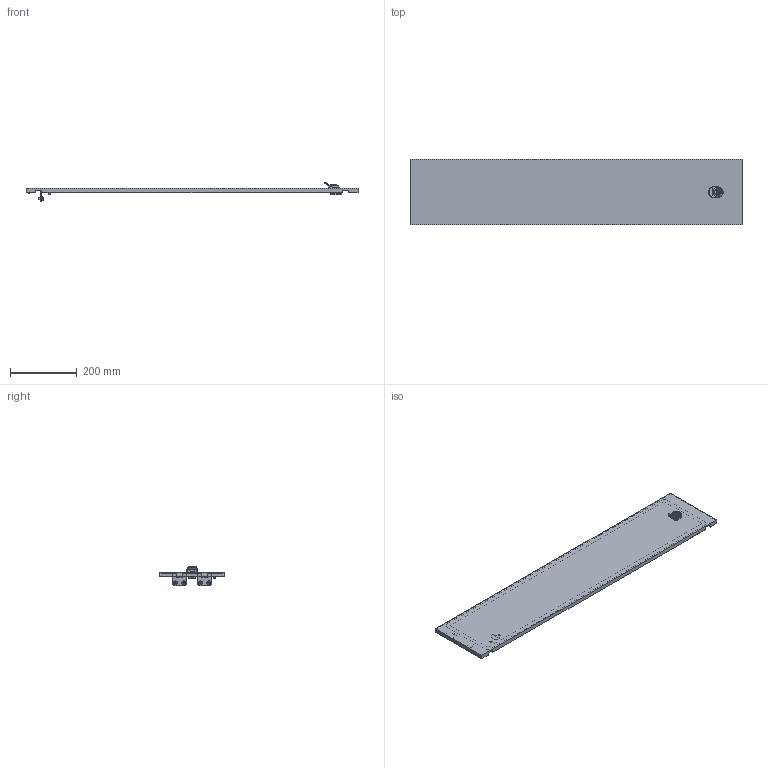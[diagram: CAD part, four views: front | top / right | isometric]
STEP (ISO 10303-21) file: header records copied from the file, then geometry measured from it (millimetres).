
FILE_DESCRIPTION (( 'STEP AP214' ), '1' );
FILE_NAME ('FO-00-ESD-020-100 Äâåðü ñåêöèîííàÿ âíåøíÿÿ 200õ1000 ìì.STEP', '2025-08-20T06:34:10', ( '' ), ( '' ), 'SwSTEP 2.0', 'SolidWorks 2023', '' );
FILE_SCHEMA (( 'AUTOMOTIVE_DESIGN' ));
Length unit declared in the file: millimetre
Products named in the file (4): Дверь секционная внешняя 200х1000 мм.STEP; FO-00-ESD-020-100 Дверь секционная внешняя 200х1000 мм.STEP; FO-00-ESD-020-100 Дверь секционная внешняя 200х1000 мм; Петля_11.STEP
Assembly tree (4 placements, depth 3):
  FO-00-ESD-020-100 Дверь секционная внешняя 200х1000 мм
    FO-00-ESD-020-100 Дверь секционная внешняя 200х1000 мм.STEP
      Дверь секционная внешняя 200х1000 мм.STEP
      Петля_11.STEP  x2
Bounding box: 995 x 196 x 57.25 mm (x, y, z)
Volume: 554158.3 mm3; surface area: 477693.8 mm2
Topology: 3 solids, 9 shells, 515 faces, 1317 edges, 852 vertices
Faces by surface type: plane 243, cylinder 202, torus 29, cone 26, bspline 15
Entity records: 13824 total; most frequent: CARTESIAN_POINT 3479, DIRECTION 2170, ORIENTED_EDGE 2124, EDGE_CURVE 1062, AXIS2_PLACEMENT_3D 758, VERTEX_POINT 690, VECTOR 654, LINE 654
